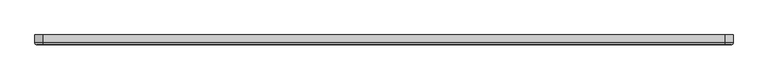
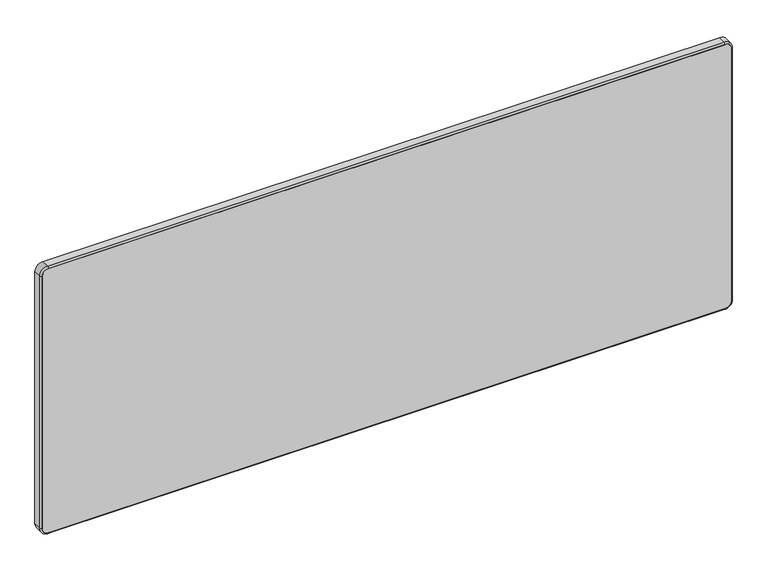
"""IFC4 building model written with IfcOpenShell, lengths in millimetres: furniture geometry, Stance_HC-Camber-Board : SK600E-DHB."""

from ifc_helpers import new_model, si_unit, point, frame, frame_2d, origin, place, context, project, spatial, polyline, circle_curve, ellipse_curve, trimmed, segment, composite_curve, outline, extrude, source, transform, mapped, element, save
from ifc_brep_helpers import plane_surface, cylinder_surface, revolved_surface, advanced_brep


def furniture_f4d5e4fb(model_context):
    return source(origin(), model_context, "Body", "SolidModel", [
        extrude(outline(composite_curve([segment(polyline([(555.6249758, 669.925), (555.6249758, -669.925)]), True, "CONTINUOUS"), segment(trimmed(circle_curve(frame_2d((542.925, -669.925)), 12.6999758), [point((555.6249758, -669.925))], [point((542.925, -682.6249758))], False, "CARTESIAN"), True, "CONTINUOUS"), segment(polyline([(542.925, -682.6249758), (15.875, -682.6249758)]), True, "CONTINUOUS"), segment(trimmed(circle_curve(frame_2d((15.875, -669.925)), 12.6999758), [point((15.875, -682.6249758))], [point((3.1750242, -669.925))], False, "CARTESIAN"), True, "CONTINUOUS"), segment(polyline([(3.1750242, -669.925), (3.1750242, 669.925)]), True, "CONTINUOUS"), segment(trimmed(circle_curve(frame_2d((15.875, 669.925)), 12.6999758), [point((3.1750242, 669.925))], [point((15.875, 682.6249758))], False, "CARTESIAN"), True, "CONTINUOUS"), segment(polyline([(15.875, 682.6249758), (542.925, 682.6249758)]), True, "CONTINUOUS"), segment(trimmed(circle_curve(frame_2d((542.925, 669.925)), 12.6999758), [point((542.925, 682.6249758))], [point((555.6249758, 669.925))], False, "CARTESIAN"), True, "CONTINUOUS")], self_intersect=False)), frame((0.0, -19.05, 0.0), z_axis=(0.0, 1.0, 0.0), x_axis=(0.0, 0.0, 1.0)), (0.0, 0.0, 1.0), 19.05),
        advanced_brep(
        [(682.6249758, -19.05, 542.925), (669.925, -19.05, 555.6249758), (669.925, 0.0, 555.6249758), (682.6249758, 0.0, 542.925), (685.8, -15.8749996, 542.925), (669.925, -15.8749996, 558.8), (685.8, 0.0, 542.925), (669.925, 0.0, 558.8), (682.6249758, 0.0, 15.875), (682.6249758, -19.05, 15.875), (685.8, -15.8749996, 15.875), (685.8, 0.0, 15.875), (669.925, -19.05, 3.1750242), (669.925, 0.0, 3.1750242), (669.925, -15.8749996, 0.0), (669.925, 0.0, 0.0), (-669.925, 0.0, 3.1750242), (-669.925, -19.05, 3.1750242), (-669.925, -15.8749996, 0.0), (-669.925, 0.0, 0.0), (-682.6249758, -19.05, 15.875), (-682.6249758, 0.0, 15.875), (-685.8, -15.8749996, 15.875), (-685.8, 0.0, 15.875), (-682.6249758, 0.0, 542.925), (-682.6249758, -19.05, 542.925), (-685.8, -15.8749996, 542.925), (-685.8, 0.0, 542.925), (-669.925, -19.05, 555.6249758), (-669.925, 0.0, 555.6249758), (-669.925, -15.8749996, 558.8), (-669.925, 0.0, 558.8)],
        [
            (0, 1, circle_curve(frame((669.925, -19.05, 542.925), z_axis=(0.0, -1.0, 0.0), x_axis=(0.0, 0.0, 1.0)), 12.6999758)),
            (1, 2),
            (2, 3, circle_curve(frame((669.925, 0.0, 542.925), z_axis=(0.0, 1.0, 0.0), x_axis=(0.0, 0.0, 1.0)), 12.6999758)),
            (3, 0),
            (4, 5, circle_curve(frame((669.925, -15.8749996, 542.925), z_axis=(0.0, -1.0, 0.0), x_axis=(0.0, 0.0, 1.0)), 15.875)),
            (5, 1, circle_curve(frame((669.925, -15.8749996, 555.6249996), z_axis=(1.0, 0.0, 0.0), x_axis=(0.0, 0.0, 1.0)), 3.1750004)),
            (0, 4, circle_curve(frame((682.6249996, -15.8749996, 542.925), z_axis=(0.0, 0.0, 1.0), x_axis=(1.0, 0.0, 0.0)), 3.1750004)),
            (6, 7, circle_curve(frame((669.925, 0.0, 542.925), z_axis=(0.0, -1.0, 0.0), x_axis=(0.0, 0.0, 1.0)), 15.875)),
            (7, 5),
            (4, 6),
            (3, 8),
            (8, 9),
            (9, 0),
            (9, 10, circle_curve(frame((682.6249996, -15.8749996, 15.875), z_axis=(0.0, 0.0, 1.0), x_axis=(1.0, 0.0, 0.0)), 3.1750004)),
            (10, 4),
            (10, 11),
            (11, 6),
            (12, 9, circle_curve(frame((669.925, -19.05, 15.875), z_axis=(0.0, -1.0, 0.0), x_axis=(1.0, 0.0, 0.0)), 12.6999758)),
            (8, 13, circle_curve(frame((669.925, 0.0, 15.875), z_axis=(0.0, 1.0, 0.0), x_axis=(1.0, 0.0, 0.0)), 12.6999758)),
            (13, 12),
            (14, 10, circle_curve(frame((669.925, -15.8749996, 15.875), z_axis=(0.0, -1.0, 0.0), x_axis=(1.0, 0.0, 0.0)), 15.875)),
            (12, 14, circle_curve(frame((669.925, -15.8749996, 3.1750004), z_axis=(1.0, 0.0, 0.0), x_axis=(0.0, 0.0, -1.0)), 3.1750004)),
            (15, 11, circle_curve(frame((669.925, 0.0, 15.875), z_axis=(0.0, -1.0, 0.0), x_axis=(1.0, 0.0, 0.0)), 15.875)),
            (14, 15),
            (13, 16),
            (16, 17),
            (17, 12),
            (17, 18, circle_curve(frame((-669.925, -15.8749996, 3.1750004), z_axis=(1.0, 0.0, 0.0), x_axis=(0.0, 0.0, -1.0)), 3.1750004)),
            (18, 14),
            (18, 19),
            (19, 15),
            (20, 17, circle_curve(frame((-669.925, -19.05, 15.875), z_axis=(0.0, -1.0, 0.0), x_axis=(0.0, 0.0, -1.0)), 12.6999758)),
            (16, 21, circle_curve(frame((-669.925, 0.0, 15.875), z_axis=(0.0, 1.0, 0.0), x_axis=(0.0, 0.0, -1.0)), 12.6999758)),
            (21, 20),
            (22, 18, circle_curve(frame((-669.925, -15.8749996, 15.875), z_axis=(0.0, -1.0, 0.0), x_axis=(0.0, 0.0, -1.0)), 15.875)),
            (20, 22, circle_curve(frame((-682.6249996, -15.8749996, 15.875), z_axis=(0.0, 0.0, -1.0), x_axis=(-1.0, 0.0, 0.0)), 3.1750004)),
            (23, 19, circle_curve(frame((-669.925, 0.0, 15.875), z_axis=(0.0, -1.0, 0.0), x_axis=(0.0, 0.0, -1.0)), 15.875)),
            (22, 23),
            (21, 24),
            (24, 25),
            (25, 20),
            (25, 26, circle_curve(frame((-682.6249996, -15.8749996, 542.925), z_axis=(0.0, 0.0, -1.0), x_axis=(-1.0, 0.0, 0.0)), 3.1750004)),
            (26, 22),
            (26, 27),
            (27, 23),
            (28, 25, circle_curve(frame((-669.925, -19.05, 542.925), z_axis=(0.0, -1.0, 0.0), x_axis=(-1.0, 0.0, 0.0)), 12.6999758)),
            (24, 29, circle_curve(frame((-669.925, 0.0, 542.925), z_axis=(0.0, 1.0, 0.0), x_axis=(-1.0, 0.0, 0.0)), 12.6999758)),
            (29, 28),
            (30, 26, circle_curve(frame((-669.925, -15.8749996, 542.925), z_axis=(0.0, -1.0, 0.0), x_axis=(-1.0, 0.0, 0.0)), 15.875)),
            (28, 30, circle_curve(frame((-669.925, -15.8749996, 555.6249996), z_axis=(-1.0, 0.0, 0.0), x_axis=(0.0, 0.0, 1.0)), 3.1750004)),
            (31, 27, circle_curve(frame((-669.925, 0.0, 542.925), z_axis=(0.0, -1.0, 0.0), x_axis=(-1.0, 0.0, 0.0)), 15.875)),
            (30, 31),
            (29, 2),
            (1, 28),
            (5, 30),
            (7, 31),
        ],
        [
            revolved_surface(polyline([(669.925, 0.0, 555.6249757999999), (669.925, -19.05, 555.6249757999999)]), (669.925, 0.0, 542.925), (0.0, 1.0, 0.0)),
            revolved_surface(trimmed(ellipse_curve(frame((669.925, -15.8749996, 555.6249996), z_axis=(-1.0, 0.0, 0.0), x_axis=(0.0, 0.0, 1.0)), 3.1750004, 3.1750004), [point((669.925, -19.05, 555.6249758))], [point((669.925, -15.8749996, 558.8))], True, "CARTESIAN"), (669.925, 0.0, 542.925), (0.0, 1.0, 0.0)),
            cylinder_surface(frame((669.925, 0.0, 542.925), z_axis=(0.0, 1.0, 0.0), x_axis=(0.0, 0.0, 1.0)), 15.875),
            plane_surface(frame((682.6249758, 0.0, 542.925), z_axis=(-1.0, 0.0, 0.0), x_axis=(0.0, 0.0, -1.0))),
            cylinder_surface(frame((682.6249996, -15.8749996, 542.925), z_axis=(0.0, 0.0, 1.0), x_axis=(1.0, 0.0, 0.0)), 3.1750004),
            plane_surface(frame((685.8, -15.8749996, 542.925), z_axis=(1.0, 0.0, 0.0), x_axis=(0.0, 0.0, -1.0))),
            revolved_surface(polyline([(682.6249757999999, 0.0, 15.875), (682.6249757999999, -19.05, 15.875)]), (669.925, 0.0, 15.875), (0.0, 1.0, 0.0)),
            revolved_surface(trimmed(ellipse_curve(frame((682.6249996, -15.8749996, 15.875), z_axis=(0.0, 0.0, 1.0), x_axis=(1.0, 0.0, 0.0)), 3.1750004, 3.1750004), [point((682.6249758, -19.05, 15.875))], [point((685.8, -15.8749996, 15.875))], True, "CARTESIAN"), (669.925, 0.0, 15.875), (0.0, 1.0, 0.0)),
            cylinder_surface(frame((669.925, 0.0, 15.875), z_axis=(0.0, 1.0, 0.0), x_axis=(1.0, 0.0, 0.0)), 15.875),
            plane_surface(frame((669.925, 0.0, 3.1750242), z_axis=(0.0, 0.0, 1.0), x_axis=(-1.0, 0.0, 0.0))),
            cylinder_surface(frame((669.925, -15.8749996, 3.1750004), z_axis=(1.0, 0.0, 0.0), x_axis=(0.0, 0.0, -1.0)), 3.1750004),
            plane_surface(frame((669.925, -15.8749996, 0.0), z_axis=(0.0, 0.0, -1.0), x_axis=(-1.0, 0.0, 0.0))),
            revolved_surface(polyline([(-669.925, 0.0, 3.1750241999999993), (-669.925, -19.05, 3.1750241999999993)]), (-669.925, 0.0, 15.875), (0.0, 1.0, 0.0)),
            revolved_surface(trimmed(ellipse_curve(frame((-669.925, -15.8749996, 3.1750004), z_axis=(1.0, 0.0, 0.0), x_axis=(0.0, 0.0, -1.0)), 3.1750004, 3.1750004), [point((-669.925, -19.05, 3.1750242))], [point((-669.925, -15.8749996, 0.0))], True, "CARTESIAN"), (-669.925, 0.0, 15.875), (0.0, 1.0, 0.0)),
            cylinder_surface(frame((-669.925, 0.0, 15.875), z_axis=(0.0, 1.0, 0.0), x_axis=(0.0, 0.0, -1.0)), 15.875),
            plane_surface(frame((-682.6249758, 0.0, 15.875), z_axis=(1.0, 0.0, 0.0), x_axis=(0.0, 0.0, 1.0))),
            cylinder_surface(frame((-682.6249996, -15.8749996, 15.875), z_axis=(0.0, 0.0, -1.0), x_axis=(-1.0, 0.0, 0.0)), 3.1750004),
            plane_surface(frame((-685.8, -15.8749996, 15.875), z_axis=(-1.0, 0.0, 0.0), x_axis=(0.0, 0.0, 1.0))),
            revolved_surface(polyline([(-682.6249757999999, 0.0, 542.925), (-682.6249757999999, -19.05, 542.925)]), (-669.925, 0.0, 542.925), (0.0, 1.0, 0.0)),
            revolved_surface(trimmed(ellipse_curve(frame((-682.6249996, -15.8749996, 542.925), z_axis=(0.0, 0.0, -1.0), x_axis=(-1.0, 0.0, 0.0)), 3.1750004, 3.1750004), [point((-682.6249758, -19.05, 542.925))], [point((-685.8, -15.8749996, 542.925))], True, "CARTESIAN"), (-669.925, 0.0, 542.925), (0.0, 1.0, 0.0)),
            cylinder_surface(frame((-669.925, 0.0, 542.925), z_axis=(0.0, 1.0, 0.0), x_axis=(-1.0, 0.0, 0.0)), 15.875),
            plane_surface(frame((-669.925, 0.0, 555.6249758), z_axis=(0.0, 0.0, -1.0), x_axis=(1.0, 0.0, 0.0))),
            cylinder_surface(frame((-669.925, -15.8749996, 555.6249996), z_axis=(-1.0, 0.0, 0.0), x_axis=(0.0, 0.0, 1.0)), 3.1750004),
            plane_surface(frame((-669.925, -15.8749996, 558.8), z_axis=(0.0, 0.0, 1.0), x_axis=(1.0, 0.0, 0.0))),
            plane_surface(frame((-669.925, 0.0, 558.8), z_axis=(0.0, 1.0, 0.0), x_axis=(1.0, 0.0, 0.0))),
        ],
        [
            (0, [[1, 2, 3, 4]]),
            (1, [[5, 6, -1, 7]]),
            (2, [[8, 9, -5, 10]]),
            (3, [[-4, 11, 12, 13]]),
            (4, [[-7, -13, 14, 15]]),
            (5, [[-10, -15, 16, 17]]),
            (6, [[18, -12, 19, 20]]),
            (7, [[21, -14, -18, 22]]),
            (8, [[23, -16, -21, 24]]),
            (9, [[-20, 25, 26, 27]]),
            (10, [[-22, -27, 28, 29]]),
            (11, [[-24, -29, 30, 31]]),
            (12, [[32, -26, 33, 34]]),
            (13, [[35, -28, -32, 36]]),
            (14, [[37, -30, -35, 38]]),
            (15, [[-34, 39, 40, 41]]),
            (16, [[-36, -41, 42, 43]]),
            (17, [[-38, -43, 44, 45]]),
            (18, [[46, -40, 47, 48]]),
            (19, [[49, -42, -46, 50]]),
            (20, [[51, -44, -49, 52]]),
            (21, [[-48, 53, -2, 54]]),
            (22, [[-50, -54, -6, 55]]),
            (23, [[-52, -55, -9, 56]]),
            (24, [[-45, -51, -56, -8, -17, -23, -31, -37], [-53, -47, -39, -33, -25, -19, -11, -3]]),
        ],
    ),
    ])


if __name__ == "__main__":
    model = new_model("IFC4")
    model_context = context("Model", 3, world=origin())
    ifc_project = project(units=[si_unit("LENGTHUNIT", "METRE", prefix="MILLI")], contexts=[model_context])
    site = spatial("IfcSite", under=ifc_project)
    building = spatial("IfcBuilding", under=site)
    placement = place(None, origin())
    furniture_shape = furniture_f4d5e4fb(model_context)
    element("IfcFurniture", 1, ObjectType="Stance_HC-Camber-Board : SK600E-DHB", at=placement, inside=building, context=model_context, shape_type="MappedRepresentation", body=[
        mapped(furniture_shape, transform((0.0, 0.0, 0.0), x_axis=(1.0, 0.0, 0.0), y_axis=(0.0, 1.0, 0.0), z_axis=(0.0, 0.0, 1.0))),
    ])
    save(model, "model.ifc")
